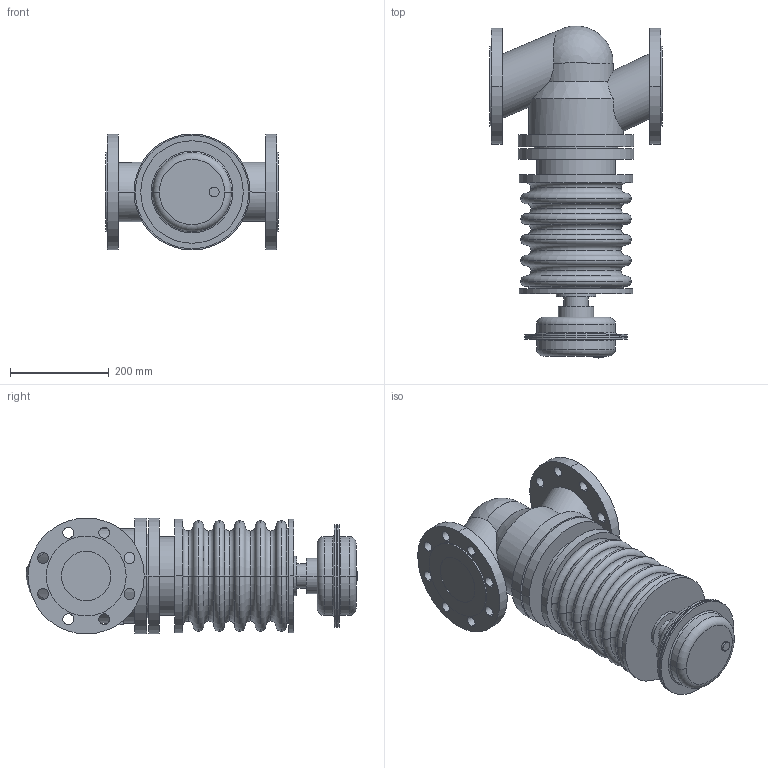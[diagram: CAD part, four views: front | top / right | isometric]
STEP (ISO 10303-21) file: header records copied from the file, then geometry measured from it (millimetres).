
FILE_DESCRIPTION(('OneSpaceDesigner STEP Export'),'2;1');
FILE_NAME('c000000565.stp','2006-08-30T 9:25:38',(''),(''),'OneSpace Designer STEP processor for AP203 (Solid Model)','OneSpace Designer 13.20A 18-Aug-2005 (C) CoCreate Software GmbH','');
FILE_SCHEMA(('CONFIG_CONTROL_DESIGN'));
Length unit declared in the file: millimetre
Products named in the file (1): 2
Bounding box: 350 x 673.15 x 235 mm (x, y, z)
Volume: 20796424.6 mm3; surface area: 917127 mm2
Topology: 1 solids, 1 shells, 176 faces, 411 edges, 260 vertices
Faces by surface type: cylinder 82, torus 50, plane 40, cone 2, sphere 2
Entity records: 4605 total; most frequent: CARTESIAN_POINT 959, ORIENTED_EDGE 818, DIRECTION 647, EDGE_CURVE 409, AXIS2_PLACEMENT_3D 266, VERTEX_POINT 260, EDGE_LOOP 233, FACE_OUTER_BOUND 176
